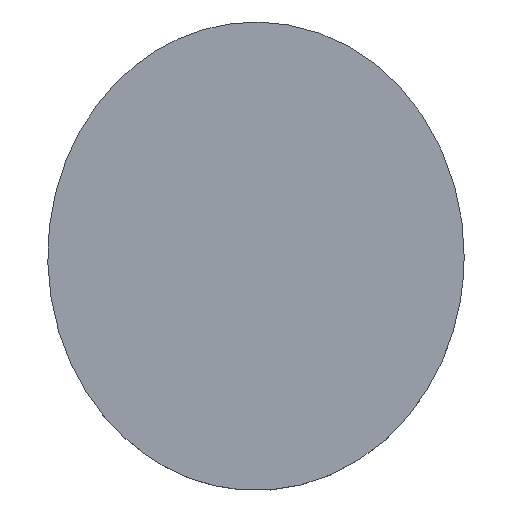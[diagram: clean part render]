
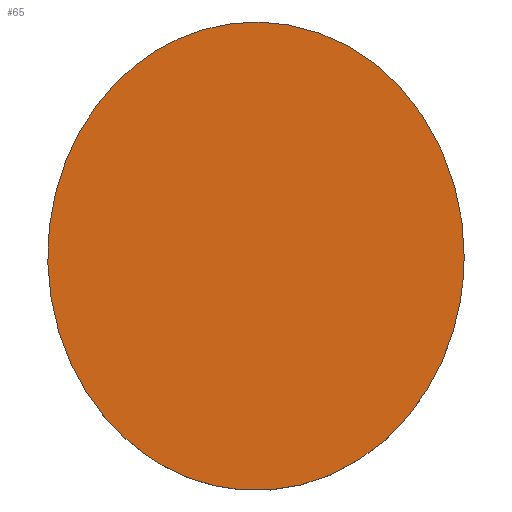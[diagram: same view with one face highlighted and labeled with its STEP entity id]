
A CAD part, top view. The second image highlights one B-rep face of the part: STEP entity #65.
In plain terms, the highlighted free-form (B-spline) face has degree [1, 1] with [2, 2] control points.
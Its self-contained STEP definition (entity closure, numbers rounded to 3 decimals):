
#21 = EDGE_CURVE('',#22,#22,#24,.T.);
#22 = VERTEX_POINT('',#23);
#23 = CARTESIAN_POINT('',(-21.5,-64.5,2.15));
#24 = ( BOUNDED_CURVE() B_SPLINE_CURVE(2,(#25,#26,#27,#28,#29,#30,#31),
.UNSPECIFIED.,.T.,.F.) B_SPLINE_CURVE_WITH_KNOTS((1,2,2,2,2,1),(
    -2.094,0.,2.094,4.189,6.283,
8.378),.UNSPECIFIED.) CURVE() GEOMETRIC_REPRESENTATION_ITEM() 
RATIONAL_B_SPLINE_CURVE((1.,0.5,1.,0.5,1.,0.5,1.)) REPRESENTATION_ITEM(
  '') );
#25 = CARTESIAN_POINT('',(-21.5,-64.5,2.15));
#26 = CARTESIAN_POINT('',(-21.5,-47.742,2.15));
#27 = CARTESIAN_POINT('',(-34.4,-56.121,2.15));
#28 = CARTESIAN_POINT('',(-47.3,-64.5,2.15));
#29 = CARTESIAN_POINT('',(-34.4,-72.879,2.15));
#30 = CARTESIAN_POINT('',(-21.5,-81.258,2.15));
#31 = CARTESIAN_POINT('',(-21.5,-64.5,2.15));
#65 = ADVANCED_FACE('',(#66),#69,.T.);
#66 = FACE_BOUND('',#67,.T.);
#67 = EDGE_LOOP('',(#68));
#68 = ORIENTED_EDGE('',*,*,#21,.T.);
#69 = B_SPLINE_SURFACE_WITH_KNOTS('',1,1,(
    (#70,#71)
    ,(#72,#73)),.UNSPECIFIED.,.F.,.F.,.F.,(2,2),(2,2),(-1.,1.),(-1.,1.),
  .PIECEWISE_BEZIER_KNOTS.);
#70 = CARTESIAN_POINT('',(-38.7,-74.175,2.15));
#71 = CARTESIAN_POINT('',(-38.7,-54.825,2.15));
#72 = CARTESIAN_POINT('',(-21.5,-74.175,2.15));
#73 = CARTESIAN_POINT('',(-21.5,-54.825,2.15));
